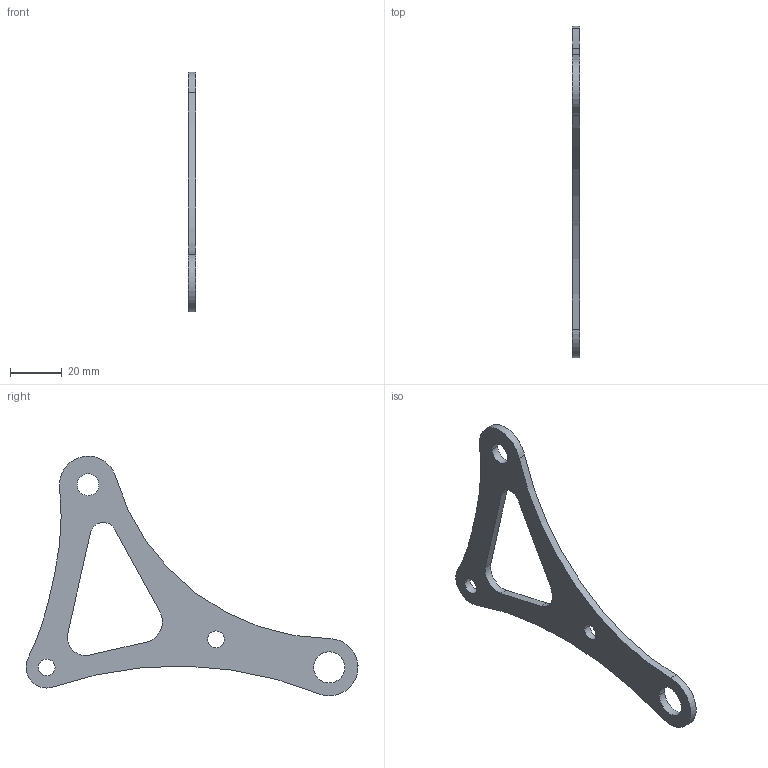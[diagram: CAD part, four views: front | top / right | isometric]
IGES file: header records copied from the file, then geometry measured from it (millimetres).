
Start section: START RECORD GO HERE.
Global section: file name: 20M_SU_06001 (front rocker).igs; native system: IBM CATIA IGES - CATIA Version 5 Release 19 ; preprocessor: CATIA Version 5 Release 19 ; author: mik75; organization: LAPTOP-SUH344G9; date: 20200110.172240; units: millimetre
Bounding box: 3 x 127.77 x 92.21 mm (x, y, z)
Surface area: 8606.3 mm2 (no closed solid volume)
Topology: 0 solids, 0 shells, 24 faces, 132 edges, 136 vertices
Faces by surface type: revolution 18, plane 6
